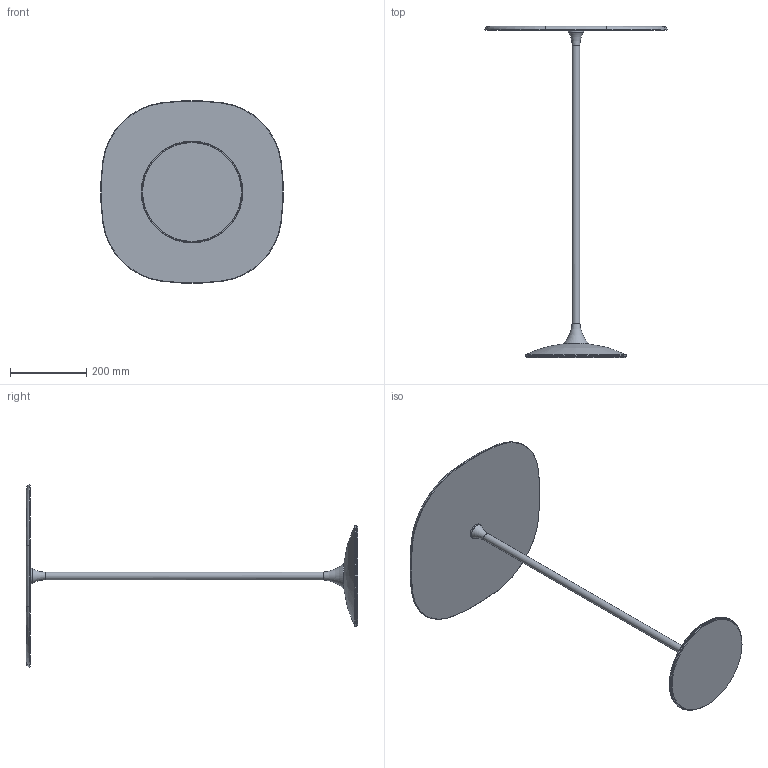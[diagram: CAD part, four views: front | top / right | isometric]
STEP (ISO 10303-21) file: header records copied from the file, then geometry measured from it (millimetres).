
FILE_DESCRIPTION((''),'2;1');
FILE_NAME('C:\AutodeskVault\AreaLavoro\Progetti\SoVeT Italia\2. Tavolini_Coffee tables\Tulip\Web file\Tulip Web\P4627.stp','2012-06-14T17:30:18',('Gianluca'),('So.Ve.T. s.r.l.'),'Autodesk Inventor 2013','Autodesk Inventor 2013','IL PROGETTO E'' DI ESCLUSIVA PROPRIETA'' DELLA SO.VE.T. srl. E'' VIETATA OGNI RIPRODUZIONE TOTALE O PARZIALE E QUALSIASI UTILIZZO NON AUTORIZZATO. ');
FILE_SCHEMA(('AUTOMOTIVE_DESIGN { 1 0 10303 214 1 1 1 1 }'));
Length unit declared in the file: millimetre
Products named in the file (1): P4627 LCTR Contorno semplificato
Bounding box: 478.8 x 870.45 x 478.8 mm (x, y, z)
Volume: 3520970.5 mm3; surface area: 574931.6 mm2
Topology: 1 solids, 1 shells, 40 faces, 85 edges, 50 vertices
Faces by surface type: torus 14, cone 14, plane 6, cylinder 5, bspline 1
Full cylindrical faces by diameter (mm): 20 x1, 40 x1, 60 x1, 260 x1, 267 x1
Entity records: 1066 total; most frequent: DIRECTION 196, CARTESIAN_POINT 174, ORIENTED_EDGE 124, AXIS2_PLACEMENT_3D 94, EDGE_CURVE 62, EDGE_LOOP 62, CIRCLE 54, VERTEX_POINT 45
